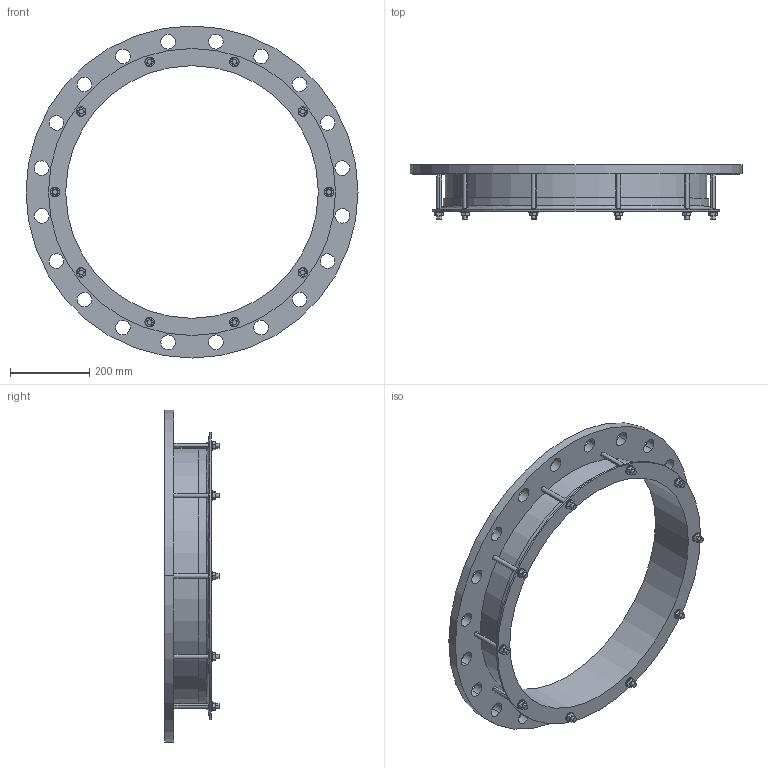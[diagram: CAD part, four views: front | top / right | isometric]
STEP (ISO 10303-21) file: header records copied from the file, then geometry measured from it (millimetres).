
FILE_DESCRIPTION((''),'2;1');
FILE_NAME('635X600PN16','2019-01-16T',('mfairey'),('Glynwed Pipe Systems'),'CREO PARAMETRIC BY PTC INC, 2016130','CREO PARAMETRIC BY PTC INC, 2016130','');
FILE_SCHEMA(('CONFIG_CONTROL_DESIGN'));
Length unit declared in the file: millimetre
Products named in the file (1): 635X600PN16
Bounding box: 840 x 137.45 x 840 mm (x, y, z)
Volume: 7942697.8 mm3; surface area: 1142192.6 mm2
Topology: 1 solids, 1 shells, 208 faces, 548 edges, 364 vertices
Faces by surface type: cylinder 108, plane 94, cone 4, torus 2
Entity records: 7202 total; most frequent: CARTESIAN_POINT 1756, DIRECTION 1132, ORIENTED_EDGE 1096, EDGE_CURVE 548, AXIS2_PLACEMENT_3D 420, VERTEX_POINT 364, VECTOR 292, LINE 292
